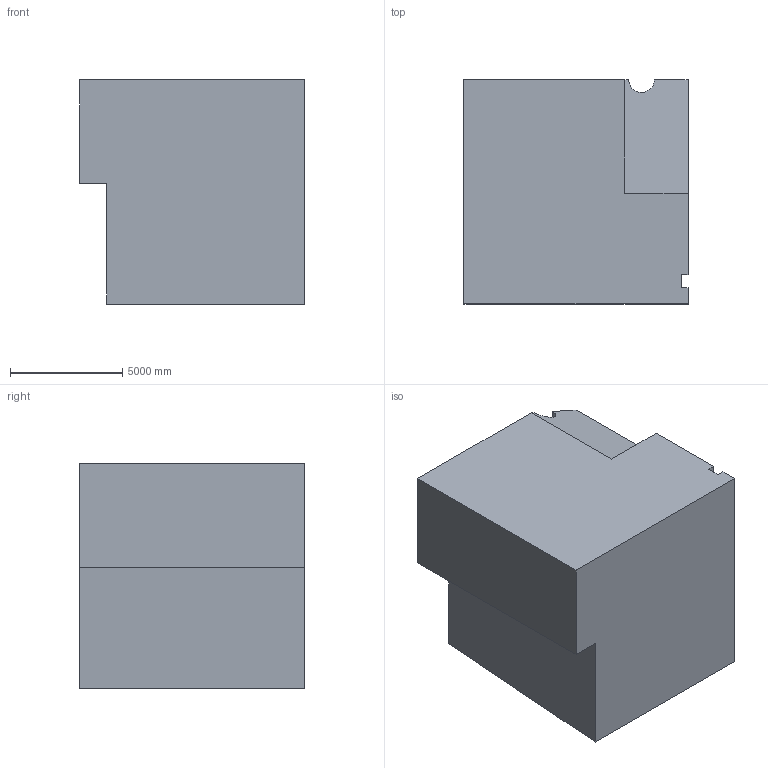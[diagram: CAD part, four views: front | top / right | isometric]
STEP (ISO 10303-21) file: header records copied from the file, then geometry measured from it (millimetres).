
FILE_DESCRIPTION (( 'STEP AP203' ), '1' );
FILE_NAME ('141.STEP', '2022-09-05T15:42:24', ( 'user' ), ( '' ), 'SwSTEP 2.0', 'SolidWorks 2021', '' );
FILE_SCHEMA (( 'CONFIG_CONTROL_DESIGN' ));
Length unit declared in the file: centimetre
Products named in the file (1): 141
Bounding box: 10000 x 10000 x 10000 mm (x, y, z)
Volume: 885656516720.7 mm3; surface area: 595306121.9 mm2
Topology: 1 solids, 1 shells, 20 faces, 54 edges, 36 vertices
Faces by surface type: plane 17, cylinder 3
Entity records: 700 total; most frequent: CARTESIAN_POINT 114, ORIENTED_EDGE 108, DIRECTION 100, EDGE_CURVE 54, LINE 48, VECTOR 48, VERTEX_POINT 36, AXIS2_PLACEMENT_3D 26
